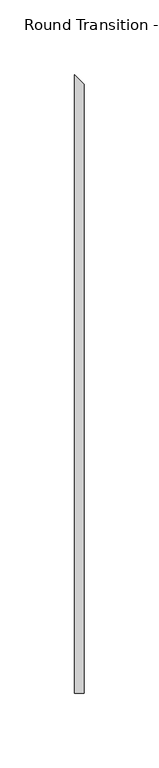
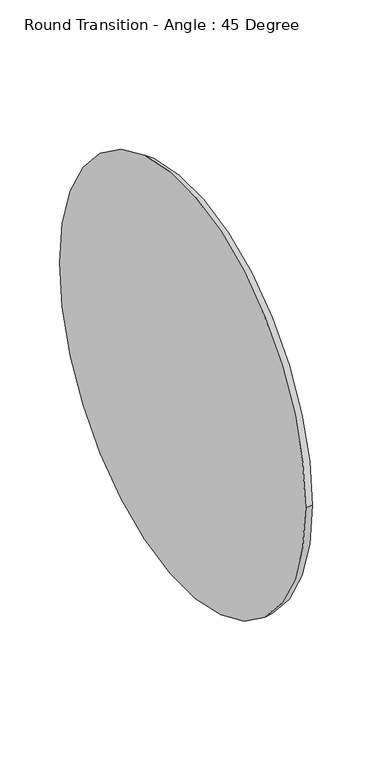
"""IFC4 building model written with IfcOpenShell, lengths in millimetres: duct fitting geometry, Round Transition - Angle : 45 Degree."""

from ifc_helpers import new_model, si_unit, frame, origin, place, context, project, spatial, circle_curve, source, transform, mapped, element, save
from ifc_brep_helpers import plane_surface, spline_surface, advanced_brep


def round_transition_angle_45_degree_2ea680a9(model_context):
    return source(origin(), model_context, "Body", "AdvancedBrep", [
        advanced_brep(
        [(6.35, -206.375, 0.0), (6.35, 200.025, 0.0), (0.0, -206.375, 0.0), (0.0, 206.375, 0.0)],
        [
            (0, 1, circle_curve(frame((6.35, -3.175, 0.0), z_axis=(1.0, 0.0, 0.0), x_axis=(0.0, 1.0, 0.0)), 203.2)),
            (1, 0, circle_curve(frame((6.35, -3.175, 0.0), z_axis=(1.0, 0.0, 0.0), x_axis=(0.0, 1.0, 0.0)), 203.2)),
            (2, 3, circle_curve(frame((0.0, 0.0, 0.0), z_axis=(-1.0, 0.0, 0.0), x_axis=(0.0, 1.0, 0.0)), 206.375)),
            (3, 2, circle_curve(frame((0.0, 0.0, 0.0), z_axis=(-1.0, 0.0, 0.0), x_axis=(0.0, 1.0, 0.0)), 206.375)),
            (3, 1),
            (0, 2),
        ],
        [
            plane_surface(frame((6.35, -3.175, 0.0), z_axis=(1.0, 0.0, 0.0), x_axis=(0.0, 0.0, -1.0))),
            plane_surface(frame((0.0, 0.0, 0.0), z_axis=(-1.0, 0.0, 0.0), x_axis=(0.0, 0.0, -1.0))),
            spline_surface(2, 1, [[(0.0, -206.375, 0.0), (6.35, -206.375, 0.0)], [(0.0, -206.375, -206.375), (6.35, -206.375, -203.2)], [(0.0, 0.0, -206.375), (6.35, -3.175, -203.2)], [(0.0, 206.375, -206.375), (6.35, 200.02499999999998, -203.2)], [(0.0, 206.375, 0.0), (6.35, 200.025, 0.0)]], [3, 2, 3], [2, 2], [0.0, 1.0, 2.0], [0.0, 1.0], weights=[[1.0, 1.0], [0.7071067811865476, 0.7071067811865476], [1.0, 1.0], [0.7071067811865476, 0.7071067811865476], [1.0, 1.0]]),
            spline_surface(2, 1, [[(0.0, 206.375, 0.0), (6.35, 200.025, 0.0)], [(0.0, 206.375, 206.375), (6.35, 200.025, 203.20000000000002)], [(0.0, 0.0, 206.375), (6.35, -3.175, 203.20000000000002)], [(0.0, -206.375, 206.375), (6.35, -206.37500000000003, 203.20000000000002)], [(0.0, -206.375, 0.0), (6.35, -206.375, 0.0)]], [3, 2, 3], [2, 2], [0.0, 1.0, 2.0], [0.0, 1.0], weights=[[1.0, 1.0], [0.7071067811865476, 0.7071067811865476], [1.0, 1.0], [0.7071067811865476, 0.7071067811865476], [1.0, 1.0]]),
        ],
        [
            (0, [[1, 2]]),
            (1, [[3, 4]]),
            (2, [[-4, 5, -1, 6]]),
            (3, [[-3, -6, -2, -5]]),
        ],
    ),
    ])


if __name__ == "__main__":
    model = new_model("IFC4")
    model_context = context("Model", 3, world=origin())
    ifc_project = project(units=[si_unit("LENGTHUNIT", "METRE", prefix="MILLI")], contexts=[model_context])
    site = spatial("IfcSite", under=ifc_project)
    building = spatial("IfcBuilding", under=site)
    placement = place(None, origin())
    round_transition_angle_45_degree_shape = round_transition_angle_45_degree_2ea680a9(model_context)
    element("IfcDuctFitting", 1, ObjectType="Round Transition - Angle : 45 Degree", at=placement, inside=building, context=model_context, shape_type="MappedRepresentation", body=[
        mapped(round_transition_angle_45_degree_shape, transform((0.0, 0.0, 0.0), x_axis=(1.0, 0.0, 0.0), y_axis=(0.0, 1.0, 0.0), z_axis=(0.0, 0.0, 1.0))),
    ])
    save(model, "model.ifc")
